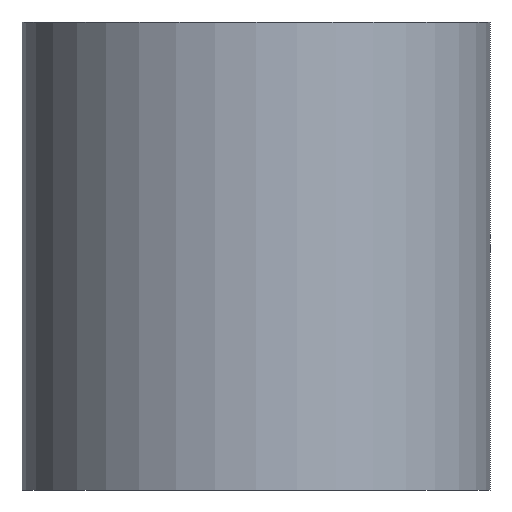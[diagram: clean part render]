
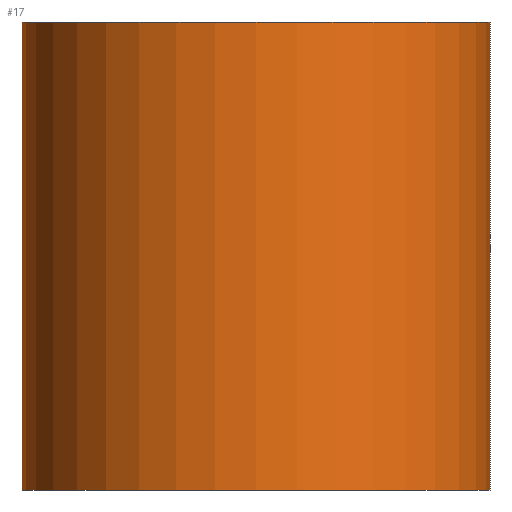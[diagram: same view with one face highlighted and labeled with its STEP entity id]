
A CAD part, front view. The second image highlights one B-rep face of the part: STEP entity #17.
In plain terms, the highlighted cylindrical face has radius 4 mm (diameter 8 mm), a full revolution.
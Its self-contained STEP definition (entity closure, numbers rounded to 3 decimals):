
#17 = ADVANCED_FACE('',(#18),#32,.T.);
#18 = FACE_BOUND('',#19,.F.);
#19 = EDGE_LOOP('',(#20,#50,#77,#78));
#20 = ORIENTED_EDGE('',*,*,#21,.T.);
#21 = EDGE_CURVE('',#22,#24,#26,.T.);
#22 = VERTEX_POINT('',#23);
#23 = CARTESIAN_POINT('',(8.,4.,0.));
#24 = VERTEX_POINT('',#25);
#25 = CARTESIAN_POINT('',(8.,4.,8.));
#26 = SEAM_CURVE('',#27,(#31,#43),.PCURVE_S1.);
#27 = LINE('',#28,#29);
#28 = CARTESIAN_POINT('',(8.,4.,0.));
#29 = VECTOR('',#30,1.);
#30 = DIRECTION('',(0.,0.,1.));
#31 = PCURVE('',#32,#37);
#32 = CYLINDRICAL_SURFACE('',#33,4.);
#33 = AXIS2_PLACEMENT_3D('',#34,#35,#36);
#34 = CARTESIAN_POINT('',(4.,4.,0.));
#35 = DIRECTION('',(-0.,-0.,-1.));
#36 = DIRECTION('',(1.,0.,0.));
#37 = DEFINITIONAL_REPRESENTATION('',(#38),#42);
#38 = LINE('',#39,#40);
#39 = CARTESIAN_POINT('',(-0.,0.));
#40 = VECTOR('',#41,1.);
#41 = DIRECTION('',(-0.,-1.));
#42 = ( GEOMETRIC_REPRESENTATION_CONTEXT(2) 
PARAMETRIC_REPRESENTATION_CONTEXT() REPRESENTATION_CONTEXT('2D SPACE',''
  ) );
#43 = PCURVE('',#32,#44);
#44 = DEFINITIONAL_REPRESENTATION('',(#45),#49);
#45 = LINE('',#46,#47);
#46 = CARTESIAN_POINT('',(-6.283,0.));
#47 = VECTOR('',#48,1.);
#48 = DIRECTION('',(-0.,-1.));
#49 = ( GEOMETRIC_REPRESENTATION_CONTEXT(2) 
PARAMETRIC_REPRESENTATION_CONTEXT() REPRESENTATION_CONTEXT('2D SPACE',''
  ) );
#50 = ORIENTED_EDGE('',*,*,#51,.T.);
#51 = EDGE_CURVE('',#24,#24,#52,.T.);
#52 = SURFACE_CURVE('',#53,(#58,#65),.PCURVE_S1.);
#53 = CIRCLE('',#54,4.);
#54 = AXIS2_PLACEMENT_3D('',#55,#56,#57);
#55 = CARTESIAN_POINT('',(4.,4.,8.));
#56 = DIRECTION('',(0.,0.,1.));
#57 = DIRECTION('',(1.,0.,0.));
#58 = PCURVE('',#32,#59);
#59 = DEFINITIONAL_REPRESENTATION('',(#60),#64);
#60 = LINE('',#61,#62);
#61 = CARTESIAN_POINT('',(-0.,-8.));
#62 = VECTOR('',#63,1.);
#63 = DIRECTION('',(-1.,0.));
#64 = ( GEOMETRIC_REPRESENTATION_CONTEXT(2) 
PARAMETRIC_REPRESENTATION_CONTEXT() REPRESENTATION_CONTEXT('2D SPACE',''
  ) );
#65 = PCURVE('',#66,#71);
#66 = PLANE('',#67);
#67 = AXIS2_PLACEMENT_3D('',#68,#69,#70);
#68 = CARTESIAN_POINT('',(4.,4.,8.));
#69 = DIRECTION('',(0.,0.,1.));
#70 = DIRECTION('',(1.,0.,-0.));
#71 = DEFINITIONAL_REPRESENTATION('',(#72),#76);
#72 = CIRCLE('',#73,4.);
#73 = AXIS2_PLACEMENT_2D('',#74,#75);
#74 = CARTESIAN_POINT('',(0.,0.));
#75 = DIRECTION('',(1.,0.));
#76 = ( GEOMETRIC_REPRESENTATION_CONTEXT(2) 
PARAMETRIC_REPRESENTATION_CONTEXT() REPRESENTATION_CONTEXT('2D SPACE',''
  ) );
#77 = ORIENTED_EDGE('',*,*,#21,.F.);
#78 = ORIENTED_EDGE('',*,*,#79,.F.);
#79 = EDGE_CURVE('',#22,#22,#80,.T.);
#80 = SURFACE_CURVE('',#81,(#86,#93),.PCURVE_S1.);
#81 = CIRCLE('',#82,4.);
#82 = AXIS2_PLACEMENT_3D('',#83,#84,#85);
#83 = CARTESIAN_POINT('',(4.,4.,0.));
#84 = DIRECTION('',(0.,0.,1.));
#85 = DIRECTION('',(1.,0.,0.));
#86 = PCURVE('',#32,#87);
#87 = DEFINITIONAL_REPRESENTATION('',(#88),#92);
#88 = LINE('',#89,#90);
#89 = CARTESIAN_POINT('',(-0.,0.));
#90 = VECTOR('',#91,1.);
#91 = DIRECTION('',(-1.,0.));
#92 = ( GEOMETRIC_REPRESENTATION_CONTEXT(2) 
PARAMETRIC_REPRESENTATION_CONTEXT() REPRESENTATION_CONTEXT('2D SPACE',''
  ) );
#93 = PCURVE('',#94,#99);
#94 = PLANE('',#95);
#95 = AXIS2_PLACEMENT_3D('',#96,#97,#98);
#96 = CARTESIAN_POINT('',(4.,4.,0.));
#97 = DIRECTION('',(0.,0.,1.));
#98 = DIRECTION('',(1.,0.,-0.));
#99 = DEFINITIONAL_REPRESENTATION('',(#100),#104);
#100 = CIRCLE('',#101,4.);
#101 = AXIS2_PLACEMENT_2D('',#102,#103);
#102 = CARTESIAN_POINT('',(0.,0.));
#103 = DIRECTION('',(1.,0.));
#104 = ( GEOMETRIC_REPRESENTATION_CONTEXT(2) 
PARAMETRIC_REPRESENTATION_CONTEXT() REPRESENTATION_CONTEXT('2D SPACE',''
  ) );
